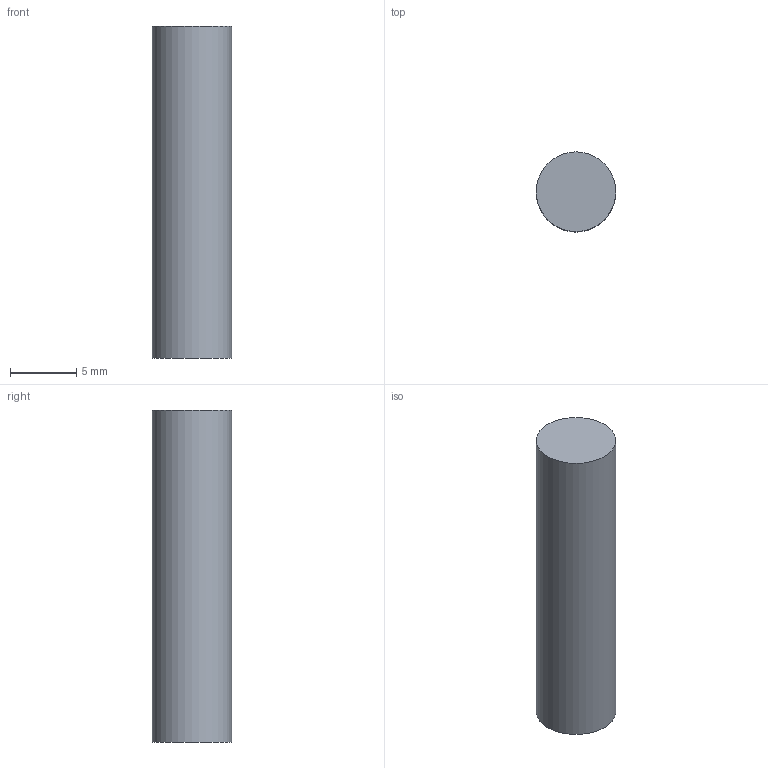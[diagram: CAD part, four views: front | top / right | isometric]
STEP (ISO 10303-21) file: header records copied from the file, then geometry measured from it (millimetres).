
FILE_DESCRIPTION(('FreeCAD Model'),'2;1');
FILE_NAME('Open CASCADE Shape Model','2026-11-09T00:40:30',('FreeCAD'),( 'FreeCAD'),'Open CASCADE STEP processor 7.8','FreeCAD','Unknown');
FILE_SCHEMA(('AUTOMOTIVE_DESIGN { 1 0 10303 214 1 1 1 1 }'));
Length unit declared in the file: millimetre
Products named in the file (1): Open CASCADE STEP translator 7.8 6
Bounding box: 6 x 6 x 25 mm (x, y, z)
Volume: 706.9 mm3; surface area: 527.8 mm2
Topology: 1 solids, 1 shells, 3 faces, 3 edges, 2 vertices
Faces by surface type: plane 2, cylinder 1
Full cylindrical faces by diameter (mm): 6 x1
Entity records: 69 total; most frequent: DIRECTION 13, CARTESIAN_POINT 9, AXIS2_PLACEMENT_3D 6, ORIENTED_EDGE 6, ADVANCED_FACE 3, FACE_BOUND 3, EDGE_LOOP 3, EDGE_CURVE 3
